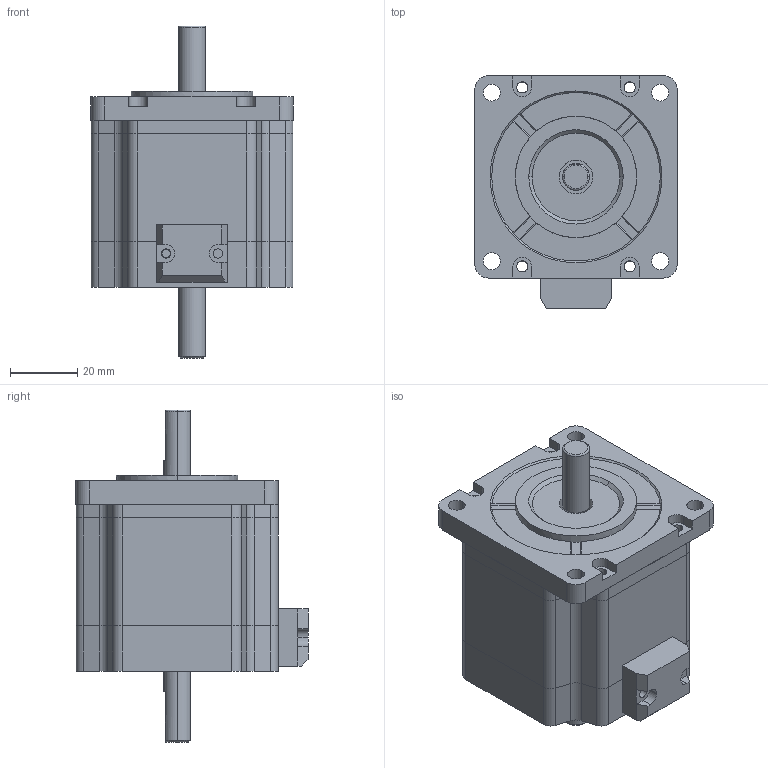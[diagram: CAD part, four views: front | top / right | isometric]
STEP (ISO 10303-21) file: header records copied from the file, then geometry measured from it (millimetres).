
FILE_DESCRIPTION (( 'STEP AP214' ), '1' );
FILE_NAME ('60CM11-D2 V2.0.STEP', '2026-06-16T08:25:20', ( '' ), ( '' ), 'SwSTEP 2.0', 'SolidWorks 2023', '' );
FILE_SCHEMA (( 'AUTOMOTIVE_DESIGN' ));
Length unit declared in the file: millimetre
Products named in the file (1): 60CM11-D2 V2.0
Bounding box: 60 x 68.86 x 98.5 mm (x, y, z)
Volume: 174065.6 mm3; surface area: 38440.3 mm2
Topology: 5 solids, 5 shells, 242 faces, 657 edges, 432 vertices
Faces by surface type: cylinder 120, plane 112, cone 7, torus 3
Entity records: 7876 total; most frequent: CARTESIAN_POINT 1420, DIRECTION 1395, ORIENTED_EDGE 1314, EDGE_CURVE 657, AXIS2_PLACEMENT_3D 515, VERTEX_POINT 432, VECTOR 365, LINE 365
